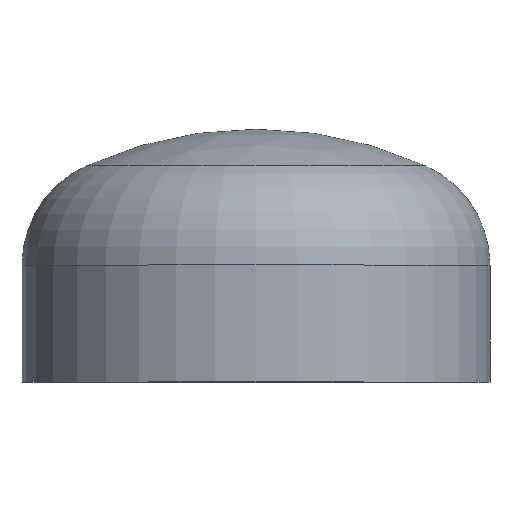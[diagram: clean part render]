
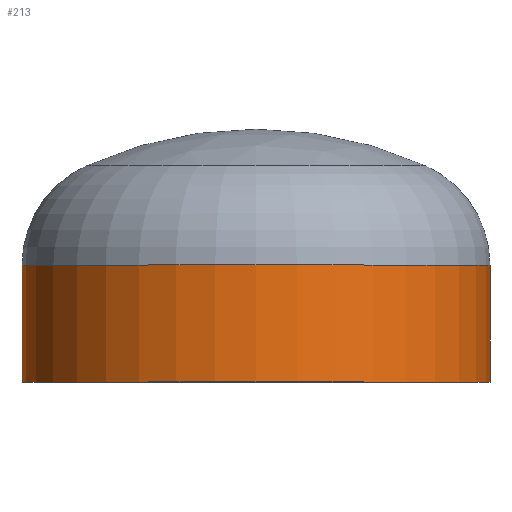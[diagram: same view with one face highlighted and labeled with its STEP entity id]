
A CAD part, top view. The second image highlights one B-rep face of the part: STEP entity #213.
In plain terms, the highlighted cylindrical face has radius 300 mm (diameter 600 mm), a partial arc.
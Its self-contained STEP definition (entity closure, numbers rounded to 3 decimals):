
#5 = EDGE_LOOP ( 'NONE', ( #108, #125, #20, #11 ) ) ;
#10 = AXIS2_PLACEMENT_3D ( 'NONE', #174, #173, #247 ) ;
#11 = ORIENTED_EDGE ( 'NONE', *, *, #369, .F. ) ;
#20 = ORIENTED_EDGE ( 'NONE', *, *, #351, .F. ) ;
#59 = VERTEX_POINT ( 'NONE', #241 ) ;
#61 = AXIS2_PLACEMENT_3D ( 'NONE', #339, #338, #360 ) ;
#92 = VERTEX_POINT ( 'NONE', #237 ) ;
#100 = CIRCLE ( 'NONE', #61, 300. ) ;
#104 = EDGE_CURVE ( 'NONE', #92, #145, #100, .T. ) ;
#108 = ORIENTED_EDGE ( 'NONE', *, *, #104, .T. ) ;
#110 = VERTEX_POINT ( 'NONE', #352 ) ;
#118 = VECTOR ( 'NONE', #313, 1000. ) ;
#120 = DIRECTION ( 'NONE',  ( 1., 0., 0. ) ) ;
#125 = ORIENTED_EDGE ( 'NONE', *, *, #353, .T. ) ;
#145 = VERTEX_POINT ( 'NONE', #248 ) ;
#156 = CARTESIAN_POINT ( 'NONE',  ( 0., 0., 0. ) ) ;
#173 = DIRECTION ( 'NONE',  ( 0., -1., 0. ) ) ;
#174 = CARTESIAN_POINT ( 'NONE',  ( 0., 0., 0. ) ) ;
#197 = LINE ( 'NONE', #409, #321 ) ;
#213 = ADVANCED_FACE ( 'NONE', ( #358 ), #405, .T. ) ;
#237 = CARTESIAN_POINT ( 'NONE',  ( 300., 150., 0. ) ) ;
#241 = CARTESIAN_POINT ( 'NONE',  ( 300., 0., 0. ) ) ;
#244 = CARTESIAN_POINT ( 'NONE',  ( -300., 0., 0. ) ) ;
#247 = DIRECTION ( 'NONE',  ( 1., 0., 0. ) ) ;
#248 = CARTESIAN_POINT ( 'NONE',  ( -300., 150., 0. ) ) ;
#260 = LINE ( 'NONE', #244, #118 ) ;
#266 = CIRCLE ( 'NONE', #359, 300. ) ;
#313 = DIRECTION ( 'NONE',  ( 0., -1., 0. ) ) ;
#321 = VECTOR ( 'NONE', #411, 1000. ) ;
#322 = DIRECTION ( 'NONE',  ( 0., -1., 0. ) ) ;
#338 = DIRECTION ( 'NONE',  ( 0., -1., 0. ) ) ;
#339 = CARTESIAN_POINT ( 'NONE',  ( 0., 150., 0. ) ) ;
#351 = EDGE_CURVE ( 'NONE', #59, #110, #266, .T. ) ;
#352 = CARTESIAN_POINT ( 'NONE',  ( -300., 0., 0. ) ) ;
#353 = EDGE_CURVE ( 'NONE', #145, #110, #260, .T. ) ;
#358 = FACE_OUTER_BOUND ( 'NONE', #5, .T. ) ;
#359 = AXIS2_PLACEMENT_3D ( 'NONE', #156, #322, #120 ) ;
#360 = DIRECTION ( 'NONE',  ( 1., 0., 0. ) ) ;
#369 = EDGE_CURVE ( 'NONE', #92, #59, #197, .T. ) ;
#405 = CYLINDRICAL_SURFACE ( 'NONE', #10, 300. ) ;
#409 = CARTESIAN_POINT ( 'NONE',  ( 300., 0., 0. ) ) ;
#411 = DIRECTION ( 'NONE',  ( 0., -1., 0. ) ) ;
